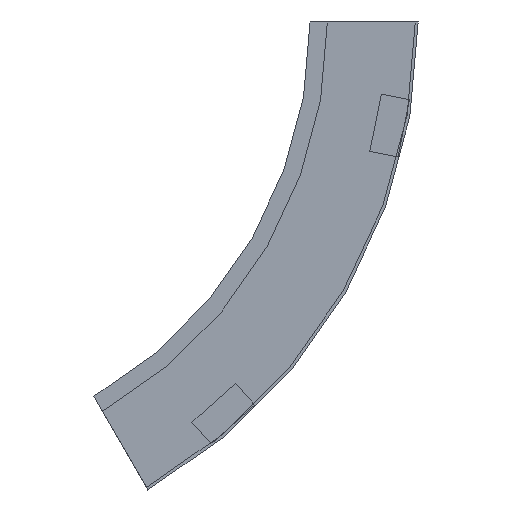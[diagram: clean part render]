
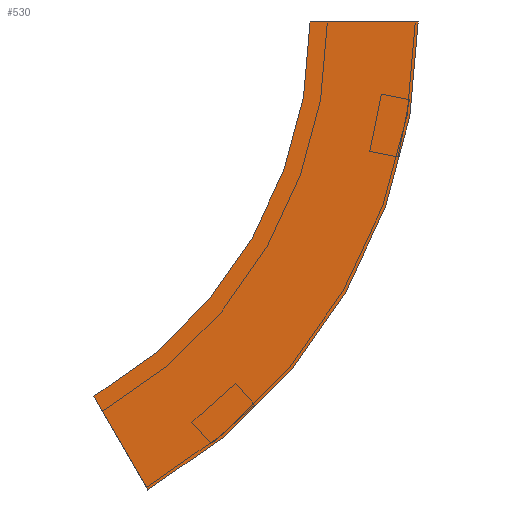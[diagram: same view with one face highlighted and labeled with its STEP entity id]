
A CAD part, left-side view. The second image highlights one B-rep face of the part: STEP entity #530.
In plain terms, the highlighted planar face has unit normal (-1, 0, 0) as drawn and (1, 0, 0) by its records, which use the part's own axes.
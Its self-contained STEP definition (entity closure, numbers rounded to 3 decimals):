
#9 = EDGE_CURVE ( 'NONE', #283, #70, #188, .T. ) ;
#19 = CARTESIAN_POINT ( 'NONE',  ( 0., 300., 0. ) ) ;
#41 = AXIS2_PLACEMENT_3D ( 'NONE', #501, #235, #418 ) ;
#42 = DIRECTION ( 'NONE',  ( 1., 0., 0. ) ) ;
#49 = ORIENTED_EDGE ( 'NONE', *, *, #83, .T. ) ;
#70 = VERTEX_POINT ( 'NONE', #416 ) ;
#83 = EDGE_CURVE ( 'NONE', #529, #70, #287, .T. ) ;
#94 = CARTESIAN_POINT ( 'NONE',  ( 0., 112.5, -324.76 ) ) ;
#97 = ORIENTED_EDGE ( 'NONE', *, *, #268, .F. ) ;
#122 = EDGE_CURVE ( 'NONE', #518, #529, #413, .T. ) ;
#135 = PLANE ( 'NONE',  #41 ) ;
#148 = DIRECTION ( 'NONE',  ( 0., 1., 0. ) ) ;
#182 = DIRECTION ( 'NONE',  ( 0., -1., 0. ) ) ;
#188 = CIRCLE ( 'NONE', #253, 300. ) ;
#192 = CARTESIAN_POINT ( 'NONE',  ( 0., -75., 0. ) ) ;
#217 = DIRECTION ( 'NONE',  ( 0., -1., 0. ) ) ;
#220 = VECTOR ( 'NONE', #148, 1000. ) ;
#235 = DIRECTION ( 'NONE',  ( -1., 0., 0. ) ) ;
#244 = AXIS2_PLACEMENT_3D ( 'NONE', #19, #380, #182 ) ;
#253 = AXIS2_PLACEMENT_3D ( 'NONE', #491, #42, #217 ) ;
#268 = EDGE_CURVE ( 'NONE', #518, #283, #433, .T. ) ;
#283 = VERTEX_POINT ( 'NONE', #396 ) ;
#287 = LINE ( 'NONE', #326, #541 ) ;
#291 = ORIENTED_EDGE ( 'NONE', *, *, #9, .F. ) ;
#325 = FACE_OUTER_BOUND ( 'NONE', #536, .T. ) ;
#326 = CARTESIAN_POINT ( 'NONE',  ( 0., 112.5, -324.76 ) ) ;
#380 = DIRECTION ( 'NONE',  ( 1., 0., 0. ) ) ;
#396 = CARTESIAN_POINT ( 'NONE',  ( 0., 0., 0. ) ) ;
#413 = CIRCLE ( 'NONE', #244, 375. ) ;
#416 = CARTESIAN_POINT ( 'NONE',  ( 0., 150., -259.808 ) ) ;
#418 = DIRECTION ( 'NONE',  ( 0., 0., 1. ) ) ;
#421 = CARTESIAN_POINT ( 'NONE',  ( 0., -75., 0. ) ) ;
#433 = LINE ( 'NONE', #192, #220 ) ;
#488 = ORIENTED_EDGE ( 'NONE', *, *, #122, .T. ) ;
#491 = CARTESIAN_POINT ( 'NONE',  ( 0., 300., 0. ) ) ;
#501 = CARTESIAN_POINT ( 'NONE',  ( 0., -75., 0. ) ) ;
#502 = DIRECTION ( 'NONE',  ( 0., 0.5, 0.866 ) ) ;
#518 = VERTEX_POINT ( 'NONE', #421 ) ;
#529 = VERTEX_POINT ( 'NONE', #94 ) ;
#530 = ADVANCED_FACE ( 'NONE', ( #325 ), #135, .F. ) ;
#536 = EDGE_LOOP ( 'NONE', ( #291, #97, #488, #49 ) ) ;
#541 = VECTOR ( 'NONE', #502, 1000. ) ;
